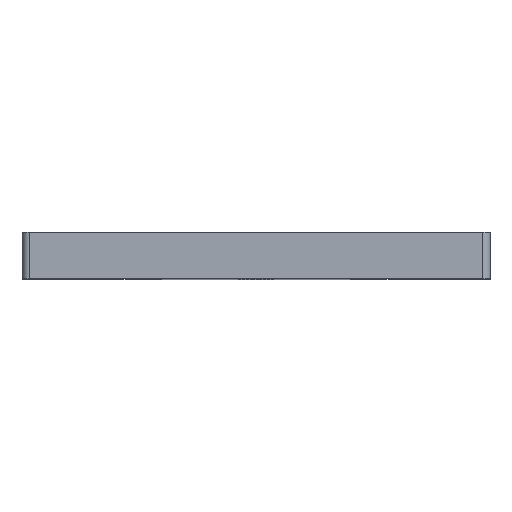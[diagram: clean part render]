
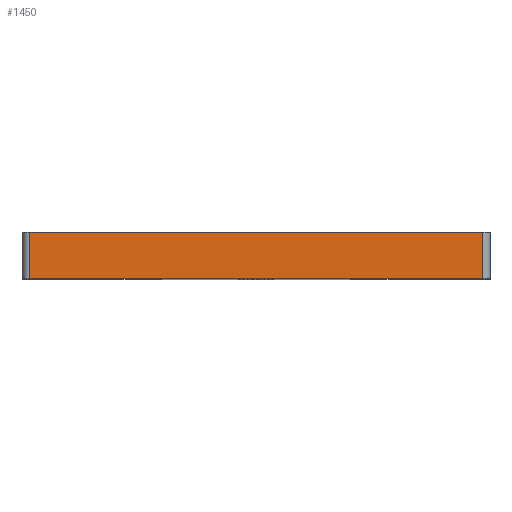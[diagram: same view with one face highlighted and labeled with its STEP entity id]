
A CAD part, top view. The second image highlights one B-rep face of the part: STEP entity #1450.
In plain terms, the highlighted planar face has unit normal (0, 0, 1).
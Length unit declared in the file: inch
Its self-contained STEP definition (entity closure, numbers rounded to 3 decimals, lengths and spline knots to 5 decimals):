
#642 = CARTESIAN_POINT ( 'NONE',  ( -0.605, 0.125, 0. ) ) ;
#722 = DIRECTION ( 'NONE',  ( 1., 0., 0. ) ) ;
#723 = VECTOR ( 'NONE', #722, 39.37008 ) ;
#724 = CARTESIAN_POINT ( 'NONE',  ( 0.625, 0., 0. ) ) ;
#725 = LINE ( 'NONE', #724, #723 ) ;
#726 = CARTESIAN_POINT ( 'NONE',  ( -0.605, 0., 0. ) ) ;
#788 = DIRECTION ( 'NONE',  ( 0., 1., 0. ) ) ;
#789 = VECTOR ( 'NONE', #788, 39.37008 ) ;
#790 = CARTESIAN_POINT ( 'NONE',  ( 0.605, 0.125, 0. ) ) ;
#791 = LINE ( 'NONE', #790, #789 ) ;
#858 = CARTESIAN_POINT ( 'NONE',  ( 0.605, 0., 0. ) ) ;
#893 = CARTESIAN_POINT ( 'NONE',  ( 0.605, 0.125, 0. ) ) ;
#955 = DIRECTION ( 'NONE',  ( 0., -1., 0. ) ) ;
#956 = VECTOR ( 'NONE', #955, 39.37008 ) ;
#957 = CARTESIAN_POINT ( 'NONE',  ( -0.605, 0.125, 0. ) ) ;
#958 = LINE ( 'NONE', #957, #956 ) ;
#1033 = DIRECTION ( 'NONE',  ( 1., 0., 0. ) ) ;
#1034 = VECTOR ( 'NONE', #1033, 39.37008 ) ;
#1035 = CARTESIAN_POINT ( 'NONE',  ( 0.625, 0.125, 0. ) ) ;
#1040 = LINE ( 'NONE', #1035, #1034 ) ;
#1140 = DIRECTION ( 'NONE',  ( -1., 0., 0. ) ) ;
#1141 = DIRECTION ( 'NONE',  ( 0., 0., -1. ) ) ;
#1142 = CARTESIAN_POINT ( 'NONE',  ( 0.625, 0.125, 0. ) ) ;
#1143 = AXIS2_PLACEMENT_3D ( 'NONE', #1142, #1141, #1140 ) ;
#1145 = PLANE ( 'NONE',  #1143 ) ;
#1146 = FACE_OUTER_BOUND ( 'NONE', #1453, .T. ) ;
#1287 = VERTEX_POINT ( 'NONE', #642 ) ;
#1323 = VERTEX_POINT ( 'NONE', #726 ) ;
#1324 = EDGE_CURVE ( 'NONE', #1323, #1359, #725, .T. ) ;
#1325 = EDGE_CURVE ( 'NONE', #1359, #1365, #791, .T. ) ;
#1359 = VERTEX_POINT ( 'NONE', #858 ) ;
#1362 = ORIENTED_EDGE ( 'NONE', *, *, #1387, .T. ) ;
#1364 = ORIENTED_EDGE ( 'NONE', *, *, #1325, .T. ) ;
#1365 = VERTEX_POINT ( 'NONE', #893 ) ;
#1366 = ORIENTED_EDGE ( 'NONE', *, *, #1394, .F. ) ;
#1387 = EDGE_CURVE ( 'NONE', #1287, #1323, #958, .T. ) ;
#1394 = EDGE_CURVE ( 'NONE', #1287, #1365, #1040, .T. ) ;
#1450 = ADVANCED_FACE ( 'NONE', ( #1146 ), #1145, .F. ) ;
#1451 = ORIENTED_EDGE ( 'NONE', *, *, #1324, .T. ) ;
#1453 = EDGE_LOOP ( 'NONE', ( #1451, #1364, #1366, #1362 ) ) ;
